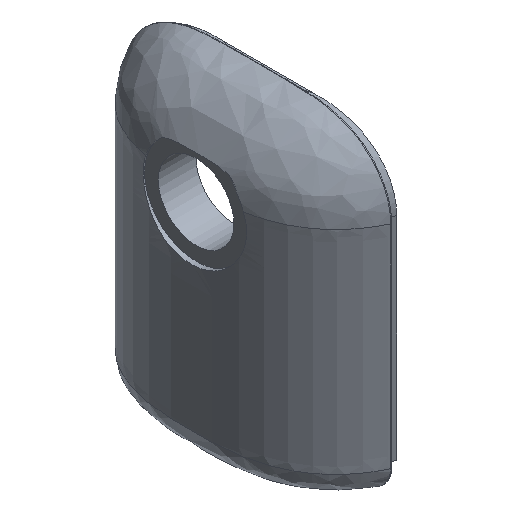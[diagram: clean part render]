
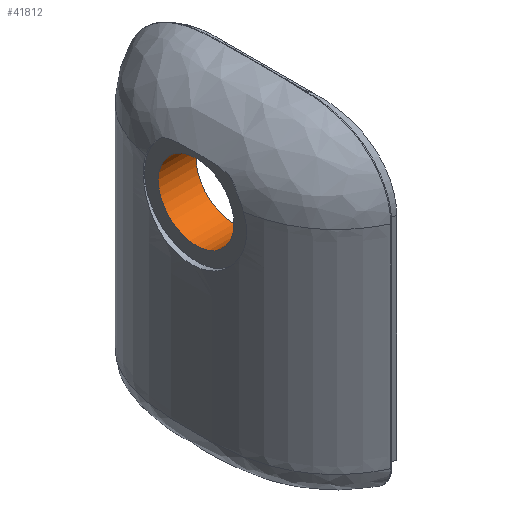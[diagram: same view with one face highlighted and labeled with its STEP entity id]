
A CAD part, isometric view. The second image highlights one B-rep face of the part: STEP entity #41812.
In plain terms, the highlighted cylindrical face has radius 11.5 mm (diameter 23 mm), a full revolution.
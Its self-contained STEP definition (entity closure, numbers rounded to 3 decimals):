
#12773 = PLANE('',#12774);
#12774 = AXIS2_PLACEMENT_3D('',#12775,#12776,#12777);
#12775 = CARTESIAN_POINT('',(-54.5,0.,115.));
#12776 = DIRECTION('',(1.,0.,0.));
#12777 = DIRECTION('',(0.,0.,-1.));
#22028 = EDGE_CURVE('',#22029,#22029,#22031,.T.);
#22029 = VERTEX_POINT('',#22030);
#22030 = CARTESIAN_POINT('',(-54.5,0.,103.5));
#22031 = SURFACE_CURVE('',#22032,(#22037,#22044),.PCURVE_S1.);
#22032 = CIRCLE('',#22033,11.5);
#22033 = AXIS2_PLACEMENT_3D('',#22034,#22035,#22036);
#22034 = CARTESIAN_POINT('',(-54.5,0.,115.));
#22035 = DIRECTION('',(1.,0.,0.));
#22036 = DIRECTION('',(0.,0.,-1.));
#22037 = PCURVE('',#12773,#22038);
#22038 = DEFINITIONAL_REPRESENTATION('',(#22039),#22043);
#22039 = CIRCLE('',#22040,11.5);
#22040 = AXIS2_PLACEMENT_2D('',#22041,#22042);
#22041 = CARTESIAN_POINT('',(0.,0.));
#22042 = DIRECTION('',(1.,0.));
#22043 = ( GEOMETRIC_REPRESENTATION_CONTEXT(2) 
PARAMETRIC_REPRESENTATION_CONTEXT() REPRESENTATION_CONTEXT('2D SPACE',''
  ) );
#22044 = PCURVE('',#22045,#22050);
#22045 = CYLINDRICAL_SURFACE('',#22046,11.5);
#22046 = AXIS2_PLACEMENT_3D('',#22047,#22048,#22049);
#22047 = CARTESIAN_POINT('',(-61.,0.,115.));
#22048 = DIRECTION('',(1.,0.,0.));
#22049 = DIRECTION('',(0.,0.,-1.));
#22050 = DEFINITIONAL_REPRESENTATION('',(#22051),#22055);
#22051 = LINE('',#22052,#22053);
#22052 = CARTESIAN_POINT('',(0.,6.5));
#22053 = VECTOR('',#22054,1.);
#22054 = DIRECTION('',(1.,0.));
#22055 = ( GEOMETRIC_REPRESENTATION_CONTEXT(2) 
PARAMETRIC_REPRESENTATION_CONTEXT() REPRESENTATION_CONTEXT('2D SPACE',''
  ) );
#41812 = ADVANCED_FACE('',(#41813),#22045,.F.);
#41813 = FACE_BOUND('',#41814,.F.);
#41814 = EDGE_LOOP('',(#41815,#41838,#41865,#41866));
#41815 = ORIENTED_EDGE('',*,*,#41816,.T.);
#41816 = EDGE_CURVE('',#22029,#41817,#41819,.T.);
#41817 = VERTEX_POINT('',#41818);
#41818 = CARTESIAN_POINT('',(-43.,0.,103.5));
#41819 = SEAM_CURVE('',#41820,(#41824,#41831),.PCURVE_S1.);
#41820 = LINE('',#41821,#41822);
#41821 = CARTESIAN_POINT('',(-61.,0.,103.5));
#41822 = VECTOR('',#41823,1.);
#41823 = DIRECTION('',(1.,0.,0.));
#41824 = PCURVE('',#22045,#41825);
#41825 = DEFINITIONAL_REPRESENTATION('',(#41826),#41830);
#41826 = LINE('',#41827,#41828);
#41827 = CARTESIAN_POINT('',(6.283,-0.));
#41828 = VECTOR('',#41829,1.);
#41829 = DIRECTION('',(0.,1.));
#41830 = ( GEOMETRIC_REPRESENTATION_CONTEXT(2) 
PARAMETRIC_REPRESENTATION_CONTEXT() REPRESENTATION_CONTEXT('2D SPACE',''
  ) );
#41831 = PCURVE('',#22045,#41832);
#41832 = DEFINITIONAL_REPRESENTATION('',(#41833),#41837);
#41833 = LINE('',#41834,#41835);
#41834 = CARTESIAN_POINT('',(0.,-0.));
#41835 = VECTOR('',#41836,1.);
#41836 = DIRECTION('',(0.,1.));
#41837 = ( GEOMETRIC_REPRESENTATION_CONTEXT(2) 
PARAMETRIC_REPRESENTATION_CONTEXT() REPRESENTATION_CONTEXT('2D SPACE',''
  ) );
#41838 = ORIENTED_EDGE('',*,*,#41839,.F.);
#41839 = EDGE_CURVE('',#41817,#41817,#41840,.T.);
#41840 = SURFACE_CURVE('',#41841,(#41846,#41853),.PCURVE_S1.);
#41841 = CIRCLE('',#41842,11.5);
#41842 = AXIS2_PLACEMENT_3D('',#41843,#41844,#41845);
#41843 = CARTESIAN_POINT('',(-43.,0.,115.));
#41844 = DIRECTION('',(1.,0.,0.));
#41845 = DIRECTION('',(0.,0.,-1.));
#41846 = PCURVE('',#22045,#41847);
#41847 = DEFINITIONAL_REPRESENTATION('',(#41848),#41852);
#41848 = LINE('',#41849,#41850);
#41849 = CARTESIAN_POINT('',(0.,18.));
#41850 = VECTOR('',#41851,1.);
#41851 = DIRECTION('',(1.,0.));
#41852 = ( GEOMETRIC_REPRESENTATION_CONTEXT(2) 
PARAMETRIC_REPRESENTATION_CONTEXT() REPRESENTATION_CONTEXT('2D SPACE',''
  ) );
#41853 = PCURVE('',#41854,#41859);
#41854 = PLANE('',#41855);
#41855 = AXIS2_PLACEMENT_3D('',#41856,#41857,#41858);
#41856 = CARTESIAN_POINT('',(-43.,0.,115.));
#41857 = DIRECTION('',(1.,0.,0.));
#41858 = DIRECTION('',(0.,0.,-1.));
#41859 = DEFINITIONAL_REPRESENTATION('',(#41860),#41864);
#41860 = CIRCLE('',#41861,11.5);
#41861 = AXIS2_PLACEMENT_2D('',#41862,#41863);
#41862 = CARTESIAN_POINT('',(0.,0.));
#41863 = DIRECTION('',(1.,0.));
#41864 = ( GEOMETRIC_REPRESENTATION_CONTEXT(2) 
PARAMETRIC_REPRESENTATION_CONTEXT() REPRESENTATION_CONTEXT('2D SPACE',''
  ) );
#41865 = ORIENTED_EDGE('',*,*,#41816,.F.);
#41866 = ORIENTED_EDGE('',*,*,#22028,.T.);
